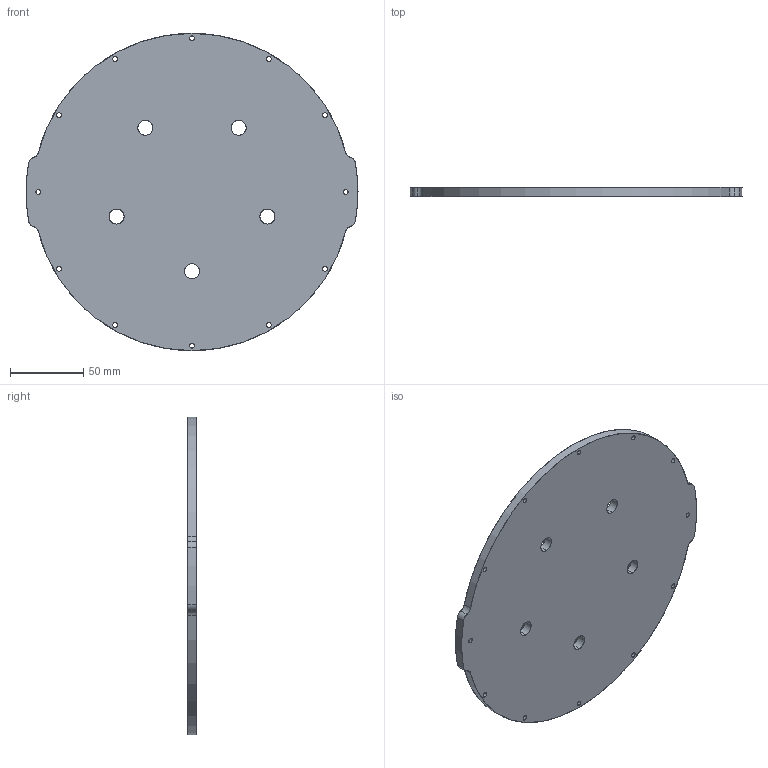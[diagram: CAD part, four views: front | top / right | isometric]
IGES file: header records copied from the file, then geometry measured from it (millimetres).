
Start section: SolidWorks IGES file using analytic representation for surfaces
Global section: file name: C:\Users\Jonathan\Dropbox\BR-Engineering\Models\WTE8-X1A-PUBLIC\WTE8-M-END-CAP-5-10MM-R1.IGS; native system: SolidWorks 2014; preprocessor: SolidWorks 2014; author: Jonathan; date: 170112.113041; units: millimetre
Bounding box: 225.9 x 6 x 215.9 mm (x, y, z)
Surface area: 78987.7 mm2 (no closed solid volume)
Topology: 0 solids, 0 shells, 49 faces, 1100 edges, 1100 vertices
Faces by surface type: revolution 47, bspline 2
